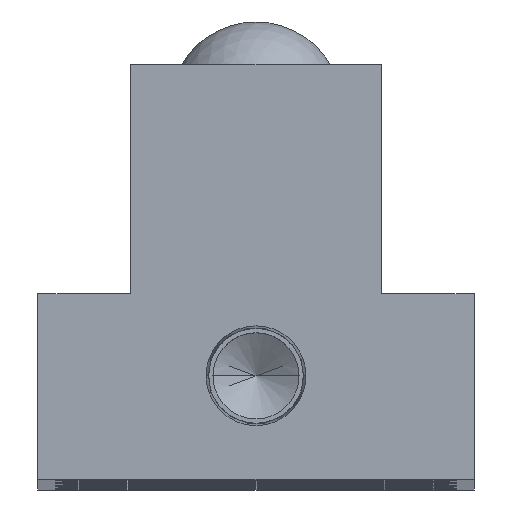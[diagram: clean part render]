
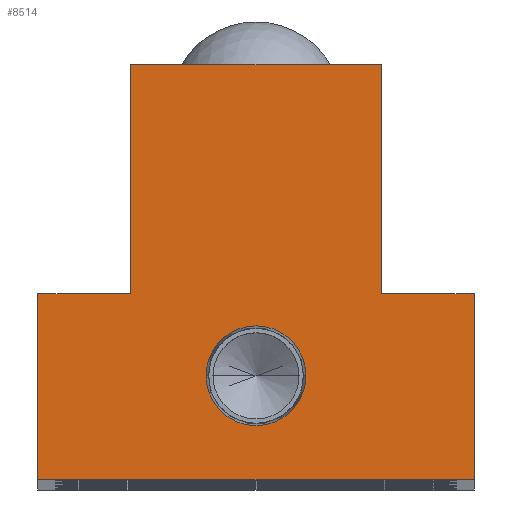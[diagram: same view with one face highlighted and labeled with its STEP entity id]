
A CAD part, top view. The second image highlights one B-rep face of the part: STEP entity #8514.
In plain terms, the highlighted planar face has unit normal (0, 0, 1).
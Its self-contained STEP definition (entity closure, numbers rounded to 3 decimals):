
#152 = CARTESIAN_POINT ( 'NONE',  ( 0., 9.5, 0. ) ) ;
#209 = CIRCLE ( 'NONE', #6903, 4.574 ) ;
#241 = EDGE_CURVE ( 'NONE', #5785, #4478, #671, .T. ) ;
#295 = DIRECTION ( 'NONE',  ( -1., 0., 0. ) ) ;
#441 = DIRECTION ( 'NONE',  ( 0., 1., 0. ) ) ;
#575 = CARTESIAN_POINT ( 'NONE',  ( -4.574, 9.5, 0. ) ) ;
#630 = VERTEX_POINT ( 'NONE', #8272 ) ;
#661 = VECTOR ( 'NONE', #295, 1000. ) ;
#671 = LINE ( 'NONE', #11683, #2730 ) ;
#900 = CARTESIAN_POINT ( 'NONE',  ( -11.5, 38., 0. ) ) ;
#971 = CARTESIAN_POINT ( 'NONE',  ( 0., 9.5, 0. ) ) ;
#1076 = AXIS2_PLACEMENT_3D ( 'NONE', #971, #8063, #1995 ) ;
#1191 = VERTEX_POINT ( 'NONE', #11927 ) ;
#1218 = DIRECTION ( 'NONE',  ( 1., 0., 0. ) ) ;
#1363 = CARTESIAN_POINT ( 'NONE',  ( 11.5, 38., 0. ) ) ;
#1386 = EDGE_CURVE ( 'NONE', #8726, #5785, #3382, .T. ) ;
#1547 = ORIENTED_EDGE ( 'NONE', *, *, #7883, .T. ) ;
#1875 = VECTOR ( 'NONE', #10626, 1000. ) ;
#1941 = LINE ( 'NONE', #1363, #7037 ) ;
#1995 = DIRECTION ( 'NONE',  ( 1., 0., 0. ) ) ;
#2015 = EDGE_CURVE ( 'NONE', #8382, #630, #5037, .T. ) ;
#2111 = CARTESIAN_POINT ( 'NONE',  ( 20., 0., 0. ) ) ;
#2196 = LINE ( 'NONE', #5544, #1875 ) ;
#2386 = CARTESIAN_POINT ( 'NONE',  ( 11.5, 38., 0. ) ) ;
#2730 = VECTOR ( 'NONE', #441, 1000. ) ;
#2807 = CARTESIAN_POINT ( 'NONE',  ( -11.5, 17., 0. ) ) ;
#3338 = CARTESIAN_POINT ( 'NONE',  ( 20., 17., 0. ) ) ;
#3382 = LINE ( 'NONE', #3338, #661 ) ;
#3430 = VECTOR ( 'NONE', #5743, 1000. ) ;
#4113 = LINE ( 'NONE', #4124, #7133 ) ;
#4124 = CARTESIAN_POINT ( 'NONE',  ( 20., 17., 0. ) ) ;
#4287 = ORIENTED_EDGE ( 'NONE', *, *, #8927, .T. ) ;
#4478 = VERTEX_POINT ( 'NONE', #2386 ) ;
#4940 = PLANE ( 'NONE',  #5612 ) ;
#4970 = ORIENTED_EDGE ( 'NONE', *, *, #5622, .T. ) ;
#5037 = CIRCLE ( 'NONE', #1076, 4.574 ) ;
#5165 = DIRECTION ( 'NONE',  ( 0., 1., 0. ) ) ;
#5238 = CARTESIAN_POINT ( 'NONE',  ( -20., 0., 0. ) ) ;
#5348 = VECTOR ( 'NONE', #9934, 1000. ) ;
#5544 = CARTESIAN_POINT ( 'NONE',  ( -11.5, 17., 0. ) ) ;
#5612 = AXIS2_PLACEMENT_3D ( 'NONE', #12053, #12088, #5968 ) ;
#5622 = EDGE_CURVE ( 'NONE', #11934, #8726, #4113, .T. ) ;
#5743 = DIRECTION ( 'NONE',  ( 0., -1., 0. ) ) ;
#5749 = EDGE_LOOP ( 'NONE', ( #6253, #10456, #6461, #1547, #7748, #4287, #10012, #4970 ) ) ;
#5775 = ORIENTED_EDGE ( 'NONE', *, *, #2015, .F. ) ;
#5785 = VERTEX_POINT ( 'NONE', #7417 ) ;
#5849 = EDGE_CURVE ( 'NONE', #1191, #12543, #2196, .T. ) ;
#5968 = DIRECTION ( 'NONE',  ( -1., 0., 0. ) ) ;
#6135 = LINE ( 'NONE', #12886, #3430 ) ;
#6156 = LINE ( 'NONE', #7071, #11590 ) ;
#6253 = ORIENTED_EDGE ( 'NONE', *, *, #1386, .T. ) ;
#6438 = FACE_BOUND ( 'NONE', #12868, .T. ) ;
#6461 = ORIENTED_EDGE ( 'NONE', *, *, #10222, .T. ) ;
#6903 = AXIS2_PLACEMENT_3D ( 'NONE', #152, #7292, #1218 ) ;
#7037 = VECTOR ( 'NONE', #7435, 1000. ) ;
#7067 = FACE_OUTER_BOUND ( 'NONE', #5749, .T. ) ;
#7071 = CARTESIAN_POINT ( 'NONE',  ( 20., 0., 0. ) ) ;
#7116 = EDGE_CURVE ( 'NONE', #9776, #11934, #6156, .T. ) ;
#7133 = VECTOR ( 'NONE', #5165, 1000. ) ;
#7292 = DIRECTION ( 'NONE',  ( 0., 0., 1. ) ) ;
#7417 = CARTESIAN_POINT ( 'NONE',  ( 11.5, 17., 0. ) ) ;
#7435 = DIRECTION ( 'NONE',  ( -1., 0., 0. ) ) ;
#7704 = LINE ( 'NONE', #2807, #5348 ) ;
#7748 = ORIENTED_EDGE ( 'NONE', *, *, #5849, .T. ) ;
#7883 = EDGE_CURVE ( 'NONE', #13274, #1191, #7704, .T. ) ;
#8063 = DIRECTION ( 'NONE',  ( 0., 0., 1. ) ) ;
#8272 = CARTESIAN_POINT ( 'NONE',  ( 4.574, 9.5, 0. ) ) ;
#8377 = CARTESIAN_POINT ( 'NONE',  ( 20., 17., 0. ) ) ;
#8382 = VERTEX_POINT ( 'NONE', #575 ) ;
#8514 = ADVANCED_FACE ( 'NONE', ( #6438, #7067 ), #4940, .F. ) ;
#8726 = VERTEX_POINT ( 'NONE', #8377 ) ;
#8927 = EDGE_CURVE ( 'NONE', #12543, #9776, #6135, .T. ) ;
#9220 = EDGE_CURVE ( 'NONE', #630, #8382, #209, .T. ) ;
#9757 = ORIENTED_EDGE ( 'NONE', *, *, #9220, .F. ) ;
#9776 = VERTEX_POINT ( 'NONE', #5238 ) ;
#9934 = DIRECTION ( 'NONE',  ( 0., -1., 0. ) ) ;
#10012 = ORIENTED_EDGE ( 'NONE', *, *, #7116, .T. ) ;
#10222 = EDGE_CURVE ( 'NONE', #4478, #13274, #1941, .T. ) ;
#10456 = ORIENTED_EDGE ( 'NONE', *, *, #241, .T. ) ;
#10626 = DIRECTION ( 'NONE',  ( -1., 0., 0. ) ) ;
#10804 = CARTESIAN_POINT ( 'NONE',  ( -20., 17., 0. ) ) ;
#11590 = VECTOR ( 'NONE', #13197, 1000. ) ;
#11683 = CARTESIAN_POINT ( 'NONE',  ( 11.5, 17., 0. ) ) ;
#11927 = CARTESIAN_POINT ( 'NONE',  ( -11.5, 17., 0. ) ) ;
#11934 = VERTEX_POINT ( 'NONE', #2111 ) ;
#12053 = CARTESIAN_POINT ( 'NONE',  ( 0., 0., 0. ) ) ;
#12088 = DIRECTION ( 'NONE',  ( 0., 0., -1. ) ) ;
#12543 = VERTEX_POINT ( 'NONE', #10804 ) ;
#12868 = EDGE_LOOP ( 'NONE', ( #9757, #5775 ) ) ;
#12886 = CARTESIAN_POINT ( 'NONE',  ( -20., 0., 0. ) ) ;
#13197 = DIRECTION ( 'NONE',  ( 1., 0., 0. ) ) ;
#13274 = VERTEX_POINT ( 'NONE', #900 ) ;
